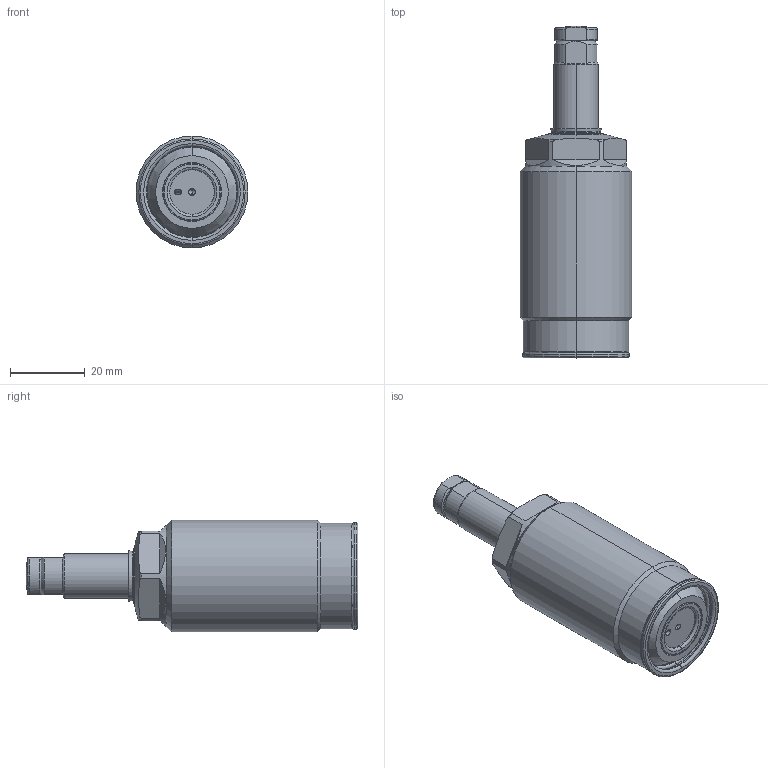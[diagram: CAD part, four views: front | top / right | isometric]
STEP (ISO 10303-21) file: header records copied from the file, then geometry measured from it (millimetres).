
FILE_DESCRIPTION(/* description */ (''),/* implementation_level */ '2;1');
FILE_NAME(/* name */ 'TSS30-Q.stp',/* time_stamp */ '2026-02-04T13:11:49+08:00',/* author */ (''),/* organization */ (''),/* preprocessor_version */ 'ST-DEVELOPER v16.7',/* originating_system */ 'SIEMENS PLM Software NX 12.0',/* authorisation */ '');
FILE_SCHEMA (('AUTOMOTIVE_DESIGN { 1 0 10303 214 3 1 1 1 }'));
Length unit declared in the file: millimetre
Products named in the file (7): XLD-M8_contactbolt; XLD-M8_Oring; AS568-022(90); TSS30-Q-01; TSS30-Q-02; TSS30-Q-03; TSS30-Q_stp
Assembly tree (6 placements, depth 3):
  TSS30-Q_stp
    TSS30-Q-03
      XLD-M8_Oring
      XLD-M8_contactbolt
    TSS30-Q-02
    TSS30-Q-01
    AS568-022(90)
Bounding box: 30 x 89 x 30 mm (x, y, z)
Volume: 40076.5 mm3; surface area: 10494.4 mm2
Topology: 5 solids, 5 shells, 169 faces, 372 edges, 223 vertices
Faces by surface type: torus 60, cylinder 41, plane 38, cone 28, sphere 2
Entity records: 5125 total; most frequent: CARTESIAN_POINT 1159, DIRECTION 905, ORIENTED_EDGE 740, AXIS2_PLACEMENT_3D 405, EDGE_CURVE 370, CIRCLE 229, VERTEX_POINT 223, EDGE_LOOP 185
